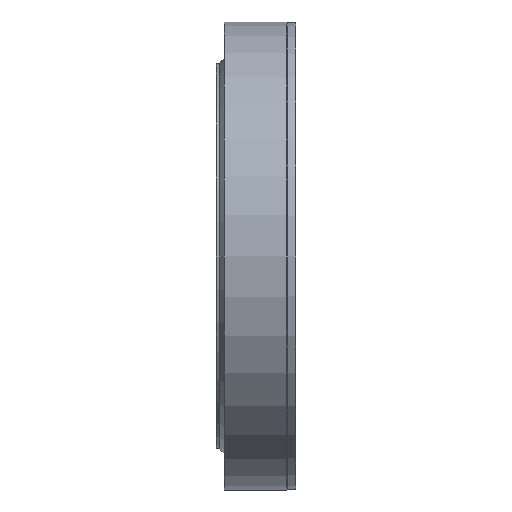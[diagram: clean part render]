
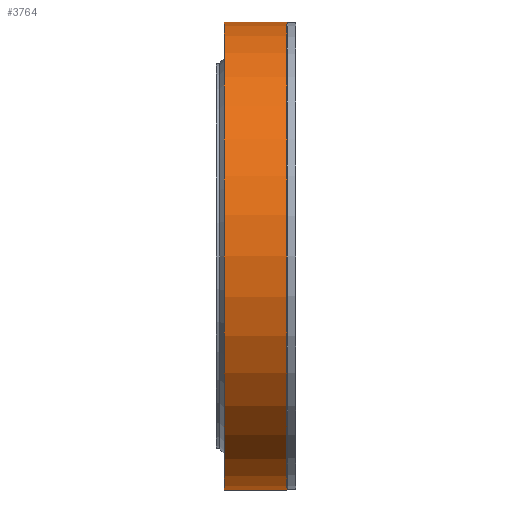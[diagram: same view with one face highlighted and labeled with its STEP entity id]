
A CAD part, left-side view. The second image highlights one B-rep face of the part: STEP entity #3764.
In plain terms, the highlighted cylindrical face has radius 287.5 mm (diameter 575 mm), a partial arc.
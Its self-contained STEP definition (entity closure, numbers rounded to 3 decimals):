
#321 = CIRCLE ( 'NONE', #1752, 287.5 ) ;
#438 = ORIENTED_EDGE ( 'NONE', *, *, #2051, .T. ) ;
#895 = DIRECTION ( 'NONE',  ( 0., 0., -1. ) ) ;
#1174 = VECTOR ( 'NONE', #7146, 1000. ) ;
#1203 = VERTEX_POINT ( 'NONE', #2554 ) ;
#1332 = VECTOR ( 'NONE', #1765, 1000. ) ;
#1571 = DIRECTION ( 'NONE',  ( 0., -1., 0. ) ) ;
#1695 = DIRECTION ( 'NONE',  ( 0., 0., -1. ) ) ;
#1752 = AXIS2_PLACEMENT_3D ( 'NONE', #6835, #6156, #5470 ) ;
#1757 = CARTESIAN_POINT ( 'NONE',  ( 0., -40.951, 287.5 ) ) ;
#1765 = DIRECTION ( 'NONE',  ( 0., -1., 0. ) ) ;
#2051 = EDGE_CURVE ( 'NONE', #1203, #7040, #5761, .T. ) ;
#2057 = VERTEX_POINT ( 'NONE', #6336 ) ;
#2242 = CYLINDRICAL_SURFACE ( 'NONE', #3717, 287.5 ) ;
#2385 = CARTESIAN_POINT ( 'NONE',  ( 0., 0., 287.5 ) ) ;
#2554 = CARTESIAN_POINT ( 'NONE',  ( 0., -40.951, -287.5 ) ) ;
#2575 = EDGE_CURVE ( 'NONE', #6596, #1203, #321, .T. ) ;
#2807 = CARTESIAN_POINT ( 'NONE',  ( 0., -117.951, -287.5 ) ) ;
#3002 = EDGE_CURVE ( 'NONE', #6596, #2057, #7774, .T. ) ;
#3417 = AXIS2_PLACEMENT_3D ( 'NONE', #7570, #6952, #1695 ) ;
#3717 = AXIS2_PLACEMENT_3D ( 'NONE', #5608, #1571, #895 ) ;
#3764 = ADVANCED_FACE ( 'NONE', ( #4996 ), #2242, .T. ) ;
#3981 = ORIENTED_EDGE ( 'NONE', *, *, #5602, .F. ) ;
#4996 = FACE_OUTER_BOUND ( 'NONE', #8573, .T. ) ;
#5470 = DIRECTION ( 'NONE',  ( 0., 0., -1. ) ) ;
#5602 = EDGE_CURVE ( 'NONE', #2057, #7040, #5803, .T. ) ;
#5608 = CARTESIAN_POINT ( 'NONE',  ( 0., 0., 0. ) ) ;
#5722 = CARTESIAN_POINT ( 'NONE',  ( 0., 0., -287.5 ) ) ;
#5761 = LINE ( 'NONE', #5722, #1174 ) ;
#5803 = CIRCLE ( 'NONE', #3417, 287.5 ) ;
#6156 = DIRECTION ( 'NONE',  ( 0., -1., 0. ) ) ;
#6336 = CARTESIAN_POINT ( 'NONE',  ( 0., -117.951, 287.5 ) ) ;
#6596 = VERTEX_POINT ( 'NONE', #1757 ) ;
#6835 = CARTESIAN_POINT ( 'NONE',  ( 0., -40.951, 0. ) ) ;
#6952 = DIRECTION ( 'NONE',  ( 0., -1., 0. ) ) ;
#7040 = VERTEX_POINT ( 'NONE', #2807 ) ;
#7146 = DIRECTION ( 'NONE',  ( 0., -1., 0. ) ) ;
#7240 = ORIENTED_EDGE ( 'NONE', *, *, #2575, .T. ) ;
#7570 = CARTESIAN_POINT ( 'NONE',  ( 0., -117.951, 0. ) ) ;
#7774 = LINE ( 'NONE', #2385, #1332 ) ;
#8478 = ORIENTED_EDGE ( 'NONE', *, *, #3002, .F. ) ;
#8573 = EDGE_LOOP ( 'NONE', ( #8478, #7240, #438, #3981 ) ) ;
